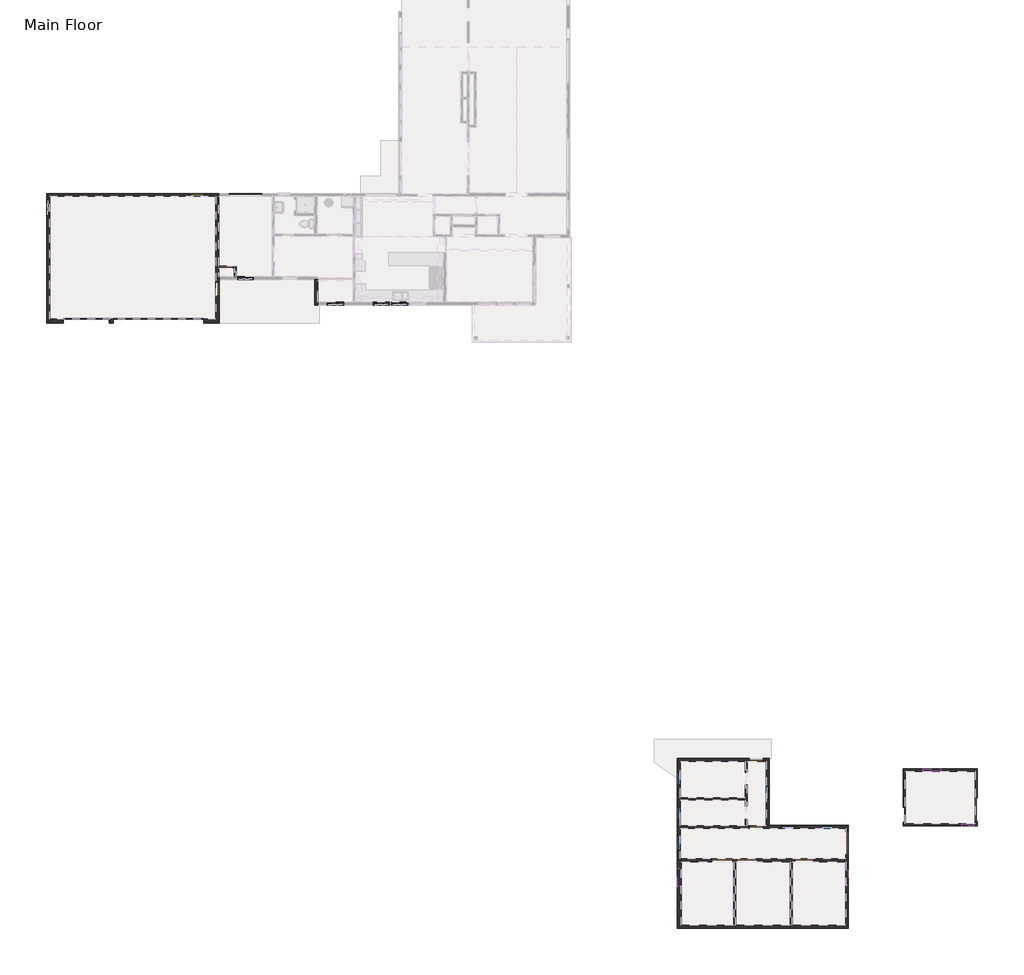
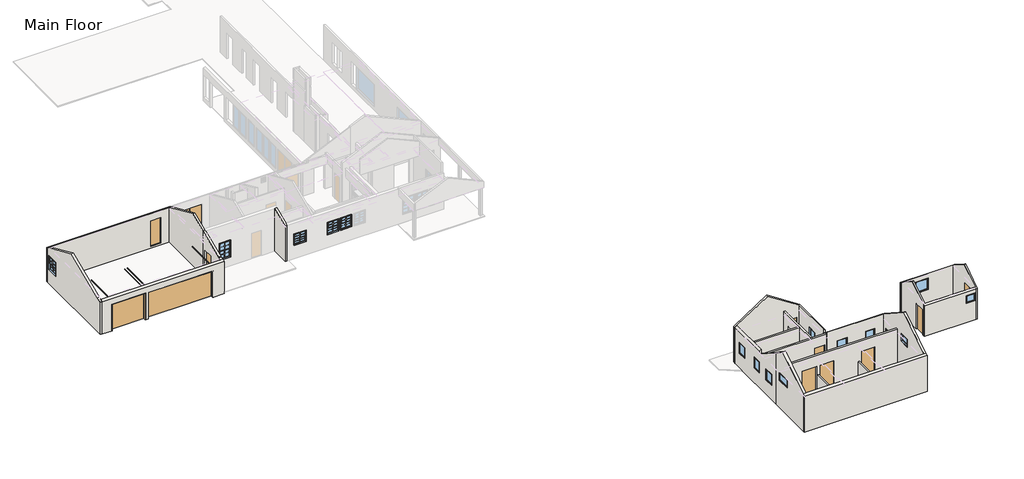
# One storey, part 1 of 7: 25 walls, 15 windows, 14 doors.
"""IFC4 building model written with IfcOpenShell, lengths in millimetres."""

from ifc_helpers import new_model, si_unit, frame, origin, origin_with_axes, place, context, project, spatial, polyline, outline, extrude, faceted_brep, transform, mapped, element, save
from components import door_56aae4db, door_aa45f35f, door_f61abd0f, door_662d1a84, door_c08c9a8a, door_f91040a7, door_c18e4cd1, door_3e174ebe, door_db714eb8, door_61cb701e, door_faa834dd, door_1b11d0cb, door_520bfe9a, default_1_2afedee8, default_1_0b7c2a07, default_1_3172ef4f, default_1_b5ca020e, default_1_563e1f2a, default_1_31258936, default_1_f0c9d7c5, default_1_b686479b, default_1_b708f4cf, default_1_5ed156b9, default_1_ae74118c, default_1_0f471e2e, default_1_8e04e30e

model = new_model("IFC4")

# Units and contexts
model_context = context("Model", 3, world=origin())
ifc_project = project(units=[si_unit("LENGTHUNIT", "METRE", prefix="MILLI")], contexts=[model_context])

# Site, building, storey
site = spatial("IfcSite", under=ifc_project)
building = spatial("IfcBuilding", under=site)
storey = spatial("IfcBuildingStorey", under=building, Name="Main Floor", Elevation=0.0)

# Doors
placement = place(None, origin())
door_shape = door_56aae4db(model_context)
element("IfcDoor", 1, ObjectType="Planitar - Garage Door : 16'-0\" x 6'-10\"", at=placement, inside=storey, context=model_context, shape_type="MappedRepresentation", body=[
    mapped(door_shape, transform((-5751.6516992, -10239.9497068, -139.7), x_axis=(-1.0, 0.0, 0.0), y_axis=(0.0, -1.0, 0.0), z_axis=(0.0, 0.0, 1.0))),
])
door_2_shape = door_aa45f35f(model_context)
element("IfcDoor", 2, ObjectType="Planitar - Single Door_Flush Panel : 2'-6\" x 6'-8\"", at=placement, inside=storey, context=model_context, shape_type="MappedRepresentation", body=[
    mapped(door_2_shape, transform((26566.3489703, -37600.6675931, 0.0), x_axis=(1.0, 0.0, 0.0), y_axis=(0.0, 1.0, 0.0), z_axis=(0.0, 0.0, 1.0))),
])
door_3_shape = door_f61abd0f(model_context)
element("IfcDoor", 3, ObjectType="Planitar - Single Door_Flush Panel : 2'-6\" x 6'-8\"", at=placement, inside=storey, context=model_context, shape_type="MappedRepresentation", body=[
    mapped(door_3_shape, transform((-2092.5156992, -7315.7747068, 0.0), x_axis=(-1.0, 0.0, 0.0), y_axis=(0.0, -1.0, 0.0), z_axis=(0.0, 0.0, 1.0))),
])
door_4_shape = door_662d1a84(model_context)
element("IfcDoor", 4, ObjectType="Planitar - Single Door_Flush Panel : 2'-6\" x 6'-8\"", at=placement, inside=storey, context=model_context, shape_type="MappedRepresentation", body=[
    mapped(door_4_shape, transform((26557.2260703, -33962.1175931, 0.0), x_axis=(1.0, 0.0, 0.0), y_axis=(0.0, 1.0, 0.0), z_axis=(0.0, 0.0, 1.0))),
])
door_5_shape = door_c08c9a8a(model_context)
element("IfcDoor", 5, ObjectType="Planitar - Single Door_Flush Panel : 2'-6\" x 6'-8\"", at=placement, inside=storey, context=model_context, shape_type="MappedRepresentation", body=[
    mapped(door_5_shape, transform((-3650.1612992, -3404.1747068, 0.0), x_axis=(1.0, 0.0, 0.0), y_axis=(0.0, 1.0, 0.0), z_axis=(0.0, 0.0, 1.0))),
])
door_6_shape = door_f91040a7(model_context)
element("IfcDoor", 6, ObjectType="Planitar - Single Door_Flush Panel : 2'-6\" x 6'-8\"", at=placement, inside=storey, context=model_context, shape_type="MappedRepresentation", body=[
    mapped(door_6_shape, transform((-2562.4156992, -8496.3574068, 0.0), x_axis=(0.0, 1.0, 0.0), y_axis=(-1.0, 0.0, 0.0), z_axis=(0.0, 0.0, 1.0))),
])
door_7_shape = door_c18e4cd1(model_context)
element("IfcDoor", 7, ObjectType="Planitar - Single Door_Flush Panel : 2'-8\" x 6'-8\"", at=placement, inside=storey, context=model_context, shape_type="MappedRepresentation", body=[
    mapped(door_7_shape, transform((34565.962334, -36937.7881179, 0.0), x_axis=(0.0, -1.0, 0.0), y_axis=(1.0, 0.0, 0.0), z_axis=(0.0, 0.0, 1.0))),
])
door_8_shape = door_3e174ebe(model_context)
element("IfcDoor", 8, ObjectType="Planitar - Single Door_Flush Panel : 3'-4\" x 6'-8\"", at=placement, inside=storey, context=model_context, shape_type="MappedRepresentation", body=[
    mapped(door_8_shape, transform((29160.5271703, -39404.0675931, 0.0), x_axis=(-1.0, 0.0, 0.0), y_axis=(0.0, -1.0, 0.0), z_axis=(0.0, 0.0, 1.0))),
])
door_9_shape = door_db714eb8(model_context)
element("IfcDoor", 9, ObjectType="Planitar - Single Door_Flush Panel : 3'-8\" x 6'-8\"", at=placement, inside=storey, context=model_context, shape_type="MappedRepresentation", body=[
    mapped(door_9_shape, transform((24727.8640703, -39404.0675931, 0.0), x_axis=(-1.0, 0.0, 0.0), y_axis=(0.0, -1.0, 0.0), z_axis=(0.0, 0.0, 1.0))),
])
element("IfcDoor", 10, ObjectType="Planitar - Single Door_Flush Panel : 3'-8\" x 6'-8\"", at=placement, inside=storey, context=model_context, shape_type="MappedRepresentation", body=[
    mapped(door_9_shape, transform((26079.6528703, -39404.0675931, 0.0), x_axis=(-1.0, 0.0, 0.0), y_axis=(0.0, -1.0, 0.0), z_axis=(0.0, 0.0, 1.0))),
])
door_10_shape = door_61cb701e(model_context)
element("IfcDoor", 11, ObjectType="Planitar - Single Door_Flush Panel : 4'-0\" x 6'-8\"", at=placement, inside=storey, context=model_context, shape_type="MappedRepresentation", body=[
    mapped(door_10_shape, transform((31467.8377703, -38480.1425931, 0.0), x_axis=(0.0, 1.0, 0.0), y_axis=(-1.0, 0.0, 0.0), z_axis=(0.0, 0.0, 1.0))),
])
door_11_shape = door_faa834dd(model_context)
element("IfcDoor", 12, ObjectType="Planitar - Single Door_Flush Panel : 4'-2\" x 6'-8\"", at=placement, inside=storey, context=model_context, shape_type="MappedRepresentation", body=[
    mapped(door_11_shape, transform((38464.862334, -36645.6881179, 0.0), x_axis=(0.0, 1.0, 0.0), y_axis=(-1.0, 0.0, 0.0), z_axis=(0.0, 0.0, 1.0))),
])
door_12_shape = door_1b11d0cb(model_context)
element("IfcDoor", 13, ObjectType="Planitar - Double Door_Flush Panel : 5'-10\" x 6'-8\"", at=placement, inside=storey, context=model_context, shape_type="MappedRepresentation", body=[
    mapped(door_12_shape, transform((-1048.9310992, -3404.1747068, 0.0), x_axis=(1.0, 0.0, 0.0), y_axis=(0.0, 1.0, 0.0), z_axis=(0.0, 0.0, 1.0))),
])
door_13_shape = door_520bfe9a(model_context)
element("IfcDoor", 14, ObjectType="Planitar - Garage Door : 8'-2\" x 6'-10\"", at=placement, inside=storey, context=model_context, shape_type="MappedRepresentation", body=[
    mapped(door_13_shape, transform((-9654.0848992, -10239.9497068, -139.7), x_axis=(-1.0, 0.0, 0.0), y_axis=(0.0, -1.0, 0.0), z_axis=(0.0, 0.0, 1.0))),
])

# Walls
element("IfcWall", 15, ObjectType="Planitar - Generic 6\"", at=placement, inside=storey, context=model_context, shape_type="Brep", body=[
    faceted_brep([(2695.3843008, -7976.1747068, 0.0), (2695.3843008, -9354.1247068, 0.0), (2695.3843008, -9354.1247068, 2825.0906686), (2695.3843008, -7976.1747068, 3412.099784), (2847.7843008, -7976.1747068, 0.0), (2847.7843008, -7976.1747068, 3412.099784), (2847.7843008, -9201.7247068, 2890.0133357), (2847.7843008, -9354.1247068, 2825.0906686), (2847.7843008, -9354.1247068, 0.0), (2847.7843008, -9201.7247068, 0.0), (2847.7843008, -8033.3247068, 0.0)], [[[0, 1, 2, 3]], [[4, 5, 6, 7, 8, 9, 10]], [[1, 0, 4, 10, 9, 8]], [[0, 3, 5, 4]], [[2, 1, 8, 7]], [[3, 2, 7, 6, 5]]]),
])
element("IfcWall", 16, ObjectType="Planitar - Generic 6\"", at=placement, inside=storey, context=model_context, shape_type="Brep", body=[
    faceted_brep([(-11788.9656992, -3480.3747068, -139.7), (-11788.9656992, -10338.3747068, -139.7), (-11788.9656992, -10338.3747068, 2405.2064819), (-11788.9656992, -9963.7247068, 2564.8080386), (-11788.9656992, -9963.7247068, 2565.4), (-11788.9656992, -6572.6284838, 4010.0129354), (-11788.9656992, -3480.3747068, 2633.2528516), (-11788.9656992, -4544.0194068, 2082.8), (-11788.9656992, -4544.0194068, 990.6), (-11788.9656992, -3629.6194068, 990.6), (-11788.9656992, -3629.6194068, 2082.8), (-11636.5656992, -3480.3747068, -139.7), (-11636.5656992, -3480.3747068, 2633.2528516), (-11636.5656992, -6572.6284838, 4010.0129354), (-11636.5656992, -9963.7247068, 2565.4), (-11636.5656992, -9963.7247068, 2564.8080386), (-11636.5656992, -10135.1747068, 2491.7700381), (-11636.5656992, -10338.3747068, 2405.2064819), (-11636.5656992, -10338.3747068, -139.7), (-11636.5656992, -10135.1747068, -139.7), (-11636.5656992, -4544.0194068, 2082.8), (-11636.5656992, -3629.6194068, 2082.8), (-11636.5656992, -3629.6194068, 990.6), (-11636.5656992, -4544.0194068, 990.6)], [[[0, 1, 2, 3, 4, 5, 6], [7, 8, 9, 10]], [[11, 12, 13, 14, 15, 16, 17, 18, 19], [20, 21, 22, 23]], [[1, 0, 11, 19, 18]], [[0, 6, 12, 11]], [[2, 1, 18, 17]], [[8, 7, 20, 23]], [[9, 8, 23, 22]], [[10, 9, 22, 21]], [[7, 10, 21, 20]], [[6, 5, 13, 12]], [[5, 4, 14, 13]], [[3, 2, 17, 16, 15]], [[14, 4, 3, 15]]]),
])
element("IfcWall", 17, ObjectType="Planitar - Generic 8\"", at=placement, inside=storey, context=model_context, shape_type="Brep", body=[
    faceted_brep([(-11636.5656992, -10338.3747068, 2405.2064819), (-11636.5656992, -10338.3747068, -139.7), (-10898.6848992, -10338.3747068, -139.7), (-10898.6848992, -10338.3747068, 1943.1), (-8409.4848992, -10338.3747068, 1943.1), (-8409.4848992, -10338.3747068, -139.7), (-8190.0516992, -10338.3747068, -139.7), (-8190.0516992, -10338.3747068, 1943.1), (-3313.2516992, -10338.3747068, 1943.1), (-3313.2516992, -10338.3747068, -139.7), (-2473.5156992, -10338.3747068, -139.7), (-2473.5156992, -10338.3747068, 2405.2064819), (-11636.5656992, -10135.1747068, -139.7), (-11636.5656992, -10135.1747068, 2491.7700381), (-2651.3156992, -10135.1747068, 2491.7700381), (-2473.5156992, -10135.1747068, 2491.7700381), (-2473.5156992, -10135.1747068, -139.7), (-2651.3156992, -10135.1747068, -139.7), (-3313.2516992, -10135.1747068, -139.7), (-3313.2516992, -10135.1747068, 1943.1), (-8190.0516992, -10135.1747068, 1943.1), (-8190.0516992, -10135.1747068, -139.7), (-8409.4848992, -10135.1747068, -139.7), (-8409.4848992, -10135.1747068, 1943.1), (-10898.6848992, -10135.1747068, 1943.1), (-10898.6848992, -10135.1747068, -139.7)], [[[0, 1, 2, 3, 4, 5, 6, 7, 8, 9, 10, 11]], [[12, 13, 14, 15, 16, 17, 18, 19, 20, 21, 22, 23, 24, 25]], [[1, 12, 25, 2]], [[16, 10, 9, 18, 17]], [[5, 22, 21, 6]], [[1, 0, 13, 12]], [[11, 10, 16, 15]], [[20, 7, 6, 21]], [[7, 20, 19, 8]], [[8, 19, 18, 9]], [[24, 3, 2, 25]], [[3, 24, 23, 4]], [[4, 23, 22, 5]], [[0, 11, 15, 14, 13]]]),
])
element("IfcWall", 18, ObjectType="Planitar - Generic 7\"", at=placement, inside=storey, context=model_context, shape_type="Brep", body=[
    faceted_brep([(-2473.5156992, -10135.1747068, -139.7), (-2473.5156992, -7899.9747068, -139.7), (-2473.5156992, -7899.9747068, 0.0), (-2473.5156992, -7899.9747068, 3444.5611176), (-2473.5156992, -7976.1747068, 3412.099784), (-2473.5156992, -9963.7247068, 2565.4), (-2473.5156992, -9963.7247068, 2564.8080386), (-2473.5156992, -10135.1747068, 2491.7700381), (-2473.5156992, -8877.3574068, 0.0), (-2473.5156992, -8877.3574068, 2032.0), (-2473.5156992, -8115.3574068, 2032.0), (-2473.5156992, -8115.3574068, 0.0), (-2651.3156992, -10135.1747068, -139.7), (-2651.3156992, -10135.1747068, 2491.7700381), (-2651.3156992, -9963.7247068, 2564.8080386), (-2651.3156992, -9963.7247068, 2565.4), (-2651.3156992, -7899.9747068, 3444.5611176), (-2651.3156992, -7899.9747068, -139.7), (-2651.3156992, -8877.3574068, 0.0), (-2651.3156992, -8115.3574068, 0.0), (-2651.3156992, -8115.3574068, 2032.0), (-2651.3156992, -8877.3574068, 2032.0), (-2498.9156992, -7899.9747068, -139.7), (-2498.9156992, -7899.9747068, 3444.5611176)], [[[0, 1, 2, 3, 4, 5, 6, 7], [8, 9, 10, 11]], [[12, 13, 14, 15, 16, 17], [18, 19, 20, 21]], [[1, 0, 12, 17, 22]], [[0, 7, 13, 12]], [[19, 18, 8, 11]], [[20, 19, 11, 10]], [[21, 20, 10, 9]], [[18, 21, 9, 8]], [[1, 22, 17, 16, 23, 3, 2]], [[5, 4, 3, 23, 16, 15]], [[7, 6, 14, 13]], [[5, 15, 14, 6]]]),
])
element("IfcWall", 19, ObjectType="Planitar - Generic 6\"", at=placement, inside=storey, context=model_context, shape_type="Brep", body=[
    faceted_brep([(-2498.9156992, -7899.9747068, 3444.5611176), (-2498.9156992, -7899.9747068, 0.0), (-2498.9156992, -7899.9747068, -139.7), (-2498.9156992, -3480.3747068, -139.7), (-2498.9156992, -3480.3747068, 2633.2528516), (-2498.9156992, -6572.6284838, 4010.0129354), (-2498.9156992, -7823.7747068, 3477.0224512), (-2651.3156992, -7899.9747068, -139.7), (-2651.3156992, -7899.9747068, 3444.5611176), (-2651.3156992, -6572.6284838, 4010.0129354), (-2651.3156992, -3480.3747068, 2633.2528516), (-2651.3156992, -3480.3747068, -139.7)], [[[0, 1, 2, 3, 4, 5, 6]], [[7, 8, 9, 10, 11]], [[3, 2, 7, 11]], [[0, 8, 7, 2, 1]], [[3, 11, 10, 4]], [[0, 6, 5, 9, 8]], [[5, 4, 10, 9]]]),
])
element("IfcWall", 20, ObjectType="Planitar - Generic 4 1/2\"", at=placement, inside=storey, context=model_context, shape_type="Brep", body=[
    faceted_brep([(-2498.9156992, -7372.9247068, 0.0), (-2473.5156992, -7372.9247068, 0.0), (-2473.5156992, -7372.9247068, 2032.0), (-1711.5156992, -7372.9247068, 2032.0), (-1711.5156992, -7372.9247068, 0.0), (-1667.0656992, -7372.9247068, 0.0), (-1552.7656992, -7372.9247068, 0.0), (-1552.7656992, -7372.9247068, 2870.2), (-1667.0656992, -7372.9247068, 2870.2), (-2498.9156992, -7372.9247068, 2870.2), (-2473.5156992, -7258.6247068, 2032.0), (-2473.5156992, -7258.6247068, 0.0), (-2498.9156992, -7258.6247068, 0.0), (-2498.9156992, -7258.6247068, 2870.2), (-1552.7656992, -7258.6247068, 2870.2), (-1552.7656992, -7258.6247068, 0.0), (-1711.5156992, -7258.6247068, 0.0), (-1711.5156992, -7258.6247068, 2032.0)], [[[0, 1, 2, 3, 4, 5, 6, 7, 8, 9]], [[10, 11, 12, 13, 14, 15, 16, 17]], [[16, 15, 6, 5, 4]], [[12, 11, 1, 0]], [[9, 8, 7, 14, 13]], [[0, 9, 13, 12]], [[7, 6, 15, 14]], [[2, 1, 11, 10]], [[3, 2, 10, 17]], [[4, 3, 17, 16]]]),
])
element("IfcWall", 21, ObjectType="Planitar - Generic 4 1/2\"", at=placement, inside=storey, context=model_context, shape_type="SweptSolid", body=[
    extrude(outline(polyline([(-1667.0656992, -7823.7747068), (-1667.0656992, -7372.9247068), (-1552.7656992, -7372.9247068), (-1552.7656992, -7823.7747068), (-1667.0656992, -7823.7747068)])), origin_with_axes(), (0.0, 0.0, 1.0), 2870.2),
])
element("IfcWall", 22, ObjectType="Planitar - Generic 6\"", at=placement, inside=storey, context=model_context, shape_type="Brep", body=[
    faceted_brep([(22292.0877703, -43068.0175931, 0.0), (31544.0377703, -43068.0175931, 0.0), (31544.0377703, -43068.0175931, 2870.2), (22292.0877703, -43068.0175931, 2870.2), (22292.0877703, -42915.6175931, 0.0), (22292.0877703, -42915.6175931, 2969.1697172), (22495.2877703, -42915.6175931, 2969.1697172), (31391.6377703, -42915.6175931, 2969.1697172), (31544.0377703, -42915.6175931, 2969.1697172), (31544.0377703, -42915.6175931, 0.0), (31391.6377703, -42915.6175931, 0.0), (28508.7377703, -42915.6175931, 0.0), (28394.4377703, -42915.6175931, 0.0), (25454.3877703, -42915.6175931, 0.0), (25340.0877703, -42915.6175931, 0.0), (22495.2877703, -42915.6175931, 0.0)], [[[0, 1, 2, 3]], [[4, 5, 6, 7, 8, 9, 10, 11, 12, 13, 14, 15]], [[1, 0, 4, 15, 14, 13, 12, 11, 10, 9]], [[2, 1, 9, 8]], [[0, 3, 5, 4]], [[3, 2, 8, 7, 6, 5]]]),
])
element("IfcWall", 23, ObjectType="Planitar - Generic 6\"", at=placement, inside=storey, context=model_context, shape_type="Brep", body=[
    faceted_brep([(31544.0377703, -37870.5425931, 2032.0), (31544.0377703, -37870.5425931, 0.0), (31544.0377703, -37505.4175931, 0.0), (31544.0377703, -37505.4175931, 2870.2), (31544.0377703, -40286.7175931, 4676.397339), (31544.0377703, -42915.6175931, 2969.1697172), (31544.0377703, -42915.6175931, 0.0), (31544.0377703, -39089.7425931, 0.0), (31544.0377703, -39089.7425931, 2032.0), (31544.0377703, -39948.6222931, 2184.4), (31544.0377703, -40761.4222931, 2184.4), (31544.0377703, -40761.4222931, 2794.0), (31544.0377703, -39948.6222931, 2794.0), (31391.6377703, -37505.4175931, 0.0), (31391.6377703, -37657.8175931, 0.0), (31391.6377703, -37870.5425931, 0.0), (31391.6377703, -37870.5425931, 2032.0), (31391.6377703, -39089.7425931, 2032.0), (31391.6377703, -39089.7425931, 0.0), (31391.6377703, -39321.5175931, 0.0), (31391.6377703, -39486.6175931, 0.0), (31391.6377703, -42915.6175931, 0.0), (31391.6377703, -42915.6175931, 2969.1697172), (31391.6377703, -40286.7175931, 4676.397339), (31391.6377703, -37657.8175931, 2969.1697172), (31391.6377703, -37505.4175931, 2870.2), (31391.6377703, -39948.6222931, 2184.4), (31391.6377703, -39948.6222931, 2794.0), (31391.6377703, -40761.4222931, 2794.0), (31391.6377703, -40761.4222931, 2184.4)], [[[0, 1, 2, 3, 4, 5, 6, 7, 8], [9, 10, 11, 12]], [[13, 14, 15, 16, 17, 18, 19, 20, 21, 22, 23, 24, 25], [26, 27, 28, 29]], [[7, 6, 21, 20, 19, 18]], [[2, 1, 15, 14, 13]], [[6, 5, 22, 21]], [[3, 2, 13, 25]], [[27, 26, 9, 12]], [[28, 27, 12, 11]], [[29, 28, 11, 10]], [[26, 29, 10, 9]], [[16, 15, 1, 0]], [[17, 16, 0, 8]], [[18, 17, 8, 7]], [[5, 4, 23, 22]], [[4, 3, 25, 24, 23]]]),
])
element("IfcWall", 24, ObjectType="Planitar - Generic 6\"", at=placement, inside=storey, context=model_context, shape_type="Brep", body=[
    faceted_brep([(31391.6377703, -37505.4175931, 0.0), (27264.1377703, -37505.4175931, 0.0), (27111.7377703, -37505.4175931, 0.0), (27111.7377703, -37505.4175931, 2870.2), (27264.1377703, -37505.4175931, 2870.2), (31391.6377703, -37505.4175931, 2870.2), (30031.7854703, -37505.4175931, 1117.6), (30742.9854703, -37505.4175931, 1117.6), (30742.9854703, -37505.4175931, 2032.0), (30031.7854703, -37505.4175931, 2032.0), (27911.3573703, -37505.4175931, 1117.6), (28673.3573703, -37505.4175931, 1117.6), (28673.3573703, -37505.4175931, 2032.0), (27911.3573703, -37505.4175931, 2032.0), (31391.6377703, -37657.8175931, 0.0), (31391.6377703, -37657.8175931, 2969.1697172), (27111.7377703, -37657.8175931, 2969.1697172), (27111.7377703, -37657.8175931, 2870.2), (27111.7377703, -37657.8175931, 0.0), (30031.7854703, -37657.8175931, 1117.6), (30031.7854703, -37657.8175931, 2032.0), (30742.9854703, -37657.8175931, 2032.0), (30742.9854703, -37657.8175931, 1117.6), (27911.3573703, -37657.8175931, 1117.6), (27911.3573703, -37657.8175931, 2032.0), (28673.3573703, -37657.8175931, 2032.0), (28673.3573703, -37657.8175931, 1117.6), (27111.7377703, -37543.5175931, 0.0)], [[[0, 1, 2, 3, 4, 5], [6, 7, 8, 9], [10, 11, 12, 13]], [[14, 15, 16, 17, 18], [19, 20, 21, 22], [23, 24, 25, 26]], [[2, 1, 0, 14, 18, 27]], [[0, 5, 15, 14]], [[3, 2, 27, 18, 17, 16]], [[20, 19, 6, 9]], [[21, 20, 9, 8]], [[22, 21, 8, 7]], [[19, 22, 7, 6]], [[24, 23, 10, 13]], [[25, 24, 13, 12]], [[26, 25, 12, 11]], [[23, 26, 11, 10]], [[5, 4, 3, 16, 15]]]),
])
element("IfcWall", 25, ObjectType="Planitar - Generic 6\"", at=placement, inside=storey, context=model_context, shape_type="Brep", body=[
    faceted_brep([(27264.1377703, -37505.4175931, 0.0), (27264.1377703, -33885.9175931, 0.0), (27264.1377703, -33885.9175931, 2870.2), (27264.1377703, -37200.6175931, 2870.2), (27264.1377703, -37200.6175931, 2672.2605656), (27264.1377703, -37505.4175931, 2870.2), (27264.1377703, -35361.3759931, 1117.6), (27264.1377703, -36123.3759931, 1117.6), (27264.1377703, -36123.3759931, 2032.0), (27264.1377703, -35361.3759931, 2032.0), (27111.7377703, -37505.4175931, 0.0), (27111.7377703, -37505.4175931, 2870.2), (27111.7377703, -37200.6175931, 2672.2605656), (27111.7377703, -37200.6175931, 2969.1697172), (27111.7377703, -34038.3175931, 2969.1697172), (27111.7377703, -33885.9175931, 2969.1697172), (27111.7377703, -33885.9175931, 0.0), (27111.7377703, -34038.3175931, 0.0), (27111.7377703, -35361.3759931, 1117.6), (27111.7377703, -35361.3759931, 2032.0), (27111.7377703, -36123.3759931, 2032.0), (27111.7377703, -36123.3759931, 1117.6)], [[[0, 1, 2, 3, 4, 5], [6, 7, 8, 9]], [[10, 11, 12, 13, 14, 15, 16, 17], [18, 19, 20, 21]], [[1, 0, 10, 17, 16]], [[0, 5, 11, 10]], [[2, 1, 16, 15]], [[19, 18, 6, 9]], [[20, 19, 9, 8]], [[21, 20, 8, 7]], [[18, 21, 7, 6]], [[3, 13, 12, 4]], [[5, 4, 12, 11]], [[3, 2, 15, 14, 13]]]),
])
element("IfcWall", 26, ObjectType="Planitar - Generic 6\"", at=placement, inside=storey, context=model_context, shape_type="Brep", body=[
    faceted_brep([(27111.7377703, -33885.9175931, 0.0), (26938.2260703, -33885.9175931, 0.0), (26938.2260703, -33885.9175931, 2032.0), (26176.2260703, -33885.9175931, 2032.0), (26176.2260703, -33885.9175931, 0.0), (22292.0877703, -33885.9175931, 0.0), (22292.0877703, -33885.9175931, 2870.2), (24778.1127703, -33885.9175931, 4484.6435119), (27111.7377703, -33885.9175931, 2969.1697172), (26938.2260703, -34038.3175931, 2032.0), (26938.2260703, -34038.3175931, 0.0), (27111.7377703, -34038.3175931, 0.0), (27111.7377703, -34038.3175931, 2969.1697172), (24778.1127703, -34038.3175931, 4484.6435119), (22444.4877703, -34038.3175931, 2969.1697172), (22292.0877703, -34038.3175931, 2870.2), (22292.0877703, -34038.3175931, 0.0), (22444.4877703, -34038.3175931, 0.0), (25962.3877703, -34038.3175931, 0.0), (26076.6877703, -34038.3175931, 0.0), (26176.2260703, -34038.3175931, 0.0), (26176.2260703, -34038.3175931, 2032.0)], [[[0, 1, 2, 3, 4, 5, 6, 7, 8]], [[9, 10, 11, 12, 13, 14, 15, 16, 17, 18, 19, 20, 21]], [[11, 10, 1, 0]], [[20, 19, 18, 17, 16, 5, 4]], [[0, 8, 12, 11]], [[6, 5, 16, 15]], [[2, 1, 10, 9]], [[3, 2, 9, 21]], [[4, 3, 21, 20]], [[8, 7, 13, 12]], [[7, 6, 15, 14, 13]]]),
])
element("IfcWall", 27, ObjectType="Planitar - Generic 6\"", at=placement, inside=storey, context=model_context, shape_type="Brep", body=[
    faceted_brep([(22292.0877703, -34038.3175931, 0.0), (22292.0877703, -39404.0675931, 0.0), (22292.0877703, -39404.0675931, 4103.1977268), (22292.0877703, -37200.6175931, 2672.2605656), (22292.0877703, -37200.6175931, 2870.2), (22292.0877703, -34038.3175931, 2870.2), (22292.0877703, -35321.0505931, 1168.4), (22292.0877703, -34609.8505931, 1168.4), (22292.0877703, -34609.8505931, 2032.0), (22292.0877703, -35321.0505931, 2032.0), (22292.0877703, -37192.0148931, 1168.4), (22292.0877703, -36531.6148931, 1168.4), (22292.0877703, -36531.6148931, 2032.0), (22292.0877703, -37192.0148931, 2032.0), (22292.0877703, -38844.1718931, 1168.4), (22292.0877703, -38082.1718931, 1168.4), (22292.0877703, -38082.1718931, 2032.0), (22292.0877703, -38844.1718931, 2032.0), (22444.4877703, -34038.3175931, 0.0), (22444.4877703, -34038.3175931, 2969.1697172), (22444.4877703, -37200.6175931, 2969.1697172), (22444.4877703, -37200.6175931, 2672.2605656), (22444.4877703, -39404.0675931, 4103.1977268), (22444.4877703, -39404.0675931, 2870.2), (22444.4877703, -39404.0675931, 0.0), (22444.4877703, -39321.5175931, 0.0), (22444.4877703, -37657.8175931, 0.0), (22444.4877703, -37543.5175931, 0.0), (22444.4877703, -36127.4675931, 0.0), (22444.4877703, -36013.1675931, 0.0), (22444.4877703, -35321.0505931, 1168.4), (22444.4877703, -35321.0505931, 2032.0), (22444.4877703, -34609.8505931, 2032.0), (22444.4877703, -34609.8505931, 1168.4), (22444.4877703, -37192.0148931, 1168.4), (22444.4877703, -37192.0148931, 2032.0), (22444.4877703, -36531.6148931, 2032.0), (22444.4877703, -36531.6148931, 1168.4), (22444.4877703, -38844.1718931, 1168.4), (22444.4877703, -38844.1718931, 2032.0), (22444.4877703, -38082.1718931, 2032.0), (22444.4877703, -38082.1718931, 1168.4)], [[[0, 1, 2, 3, 4, 5], [6, 7, 8, 9], [10, 11, 12, 13], [14, 15, 16, 17]], [[18, 19, 20, 21, 22, 23, 24, 25, 26, 27, 28, 29], [30, 31, 32, 33], [34, 35, 36, 37], [38, 39, 40, 41]], [[1, 0, 18, 29, 28, 27, 26, 25, 24]], [[2, 1, 24, 23, 22]], [[0, 5, 19, 18]], [[31, 30, 6, 9]], [[32, 31, 9, 8]], [[33, 32, 8, 7]], [[30, 33, 7, 6]], [[35, 34, 10, 13]], [[36, 35, 13, 12]], [[37, 36, 12, 11]], [[34, 37, 11, 10]], [[39, 38, 14, 17]], [[40, 39, 17, 16]], [[41, 40, 16, 15]], [[38, 41, 15, 14]], [[20, 4, 3, 21]], [[3, 2, 22, 21]], [[5, 4, 20, 19]]]),
])
element("IfcWall", 28, ObjectType="Planitar - Generic 8\"", at=placement, inside=storey, context=model_context, shape_type="Brep", body=[
    faceted_brep([(22292.0877703, -39404.0675931, 0.0), (22292.0877703, -42915.6175931, 0.0), (22292.0877703, -42915.6175931, 2969.1697172), (22292.0877703, -40286.7175931, 4676.397339), (22292.0877703, -39404.0675931, 4103.1977268), (22292.0877703, -40838.4533931, 2794.0), (22292.0877703, -40838.4533931, 2184.4), (22292.0877703, -39822.4533931, 2184.4), (22292.0877703, -39822.4533931, 2794.0), (22495.2877703, -42915.6175931, 0.0), (22495.2877703, -39486.6175931, 0.0), (22495.2877703, -39404.0675931, 0.0), (22495.2877703, -39404.0675931, 2870.2), (22495.2877703, -39404.0675931, 4103.1977268), (22495.2877703, -40286.7175931, 4676.397339), (22495.2877703, -42915.6175931, 2969.1697172), (22495.2877703, -40838.4533931, 2184.4), (22495.2877703, -40838.4533931, 2794.0), (22495.2877703, -39822.4533931, 2794.0), (22495.2877703, -39822.4533931, 2184.4), (22444.4877703, -39404.0675931, 0.0), (22444.4877703, -39404.0675931, 4103.1977268)], [[[0, 1, 2, 3, 4], [5, 6, 7, 8]], [[9, 10, 11, 12, 13, 14, 15], [16, 17, 18, 19]], [[1, 0, 20, 11, 10, 9]], [[0, 4, 21, 13, 12, 11, 20]], [[2, 1, 9, 15]], [[16, 6, 5, 17]], [[18, 8, 7, 19]], [[6, 16, 19, 7]], [[8, 18, 17, 5]], [[13, 21, 4, 3, 14]], [[2, 15, 14, 3]]]),
])
element("IfcWall", 29, ObjectType="Planitar - Generic 6 1/2\"", at=placement, inside=storey, context=model_context, shape_type="Brep", body=[
    faceted_brep([(26638.4528703, -39486.6175931, 0.0), (28394.4377703, -39486.6175931, 0.0), (28508.7377703, -39486.6175931, 0.0), (28652.5271703, -39486.6175931, 0.0), (28652.5271703, -39486.6175931, 2032.0), (29668.5271703, -39486.6175931, 2032.0), (29668.5271703, -39486.6175931, 0.0), (31391.6377703, -39486.6175931, 0.0), (31391.6377703, -39486.6175931, 2870.2), (22495.2877703, -39486.6175931, 2870.2), (22495.2877703, -39486.6175931, 0.0), (24169.0640703, -39486.6175931, 0.0), (24169.0640703, -39486.6175931, 2032.0), (25286.6640703, -39486.6175931, 2032.0), (25286.6640703, -39486.6175931, 0.0), (25340.0877703, -39486.6175931, 0.0), (25454.3877703, -39486.6175931, 0.0), (25520.8528703, -39486.6175931, 0.0), (25520.8528703, -39486.6175931, 2032.0), (26638.4528703, -39486.6175931, 2032.0), (28652.5271703, -39321.5175931, 2032.0), (28652.5271703, -39321.5175931, 0.0), (26638.4528703, -39321.5175931, 0.0), (26638.4528703, -39321.5175931, 2032.0), (25520.8528703, -39321.5175931, 2032.0), (25520.8528703, -39321.5175931, 0.0), (25286.6640703, -39321.5175931, 0.0), (25286.6640703, -39321.5175931, 2032.0), (24169.0640703, -39321.5175931, 2032.0), (24169.0640703, -39321.5175931, 0.0), (22444.4877703, -39321.5175931, 0.0), (22444.4877703, -39321.5175931, 2870.2), (31391.6377703, -39321.5175931, 2870.2), (31391.6377703, -39321.5175931, 0.0), (29668.5271703, -39321.5175931, 0.0), (29668.5271703, -39321.5175931, 2032.0), (22495.2877703, -39404.0675931, 0.0), (22444.4877703, -39404.0675931, 0.0), (22444.4877703, -39404.0675931, 2870.2), (22495.2877703, -39404.0675931, 2870.2)], [[[0, 1, 2, 3, 4, 5, 6, 7, 8, 9, 10, 11, 12, 13, 14, 15, 16, 17, 18, 19]], [[20, 21, 22, 23, 24, 25, 26, 27, 28, 29, 30, 31, 32, 33, 34, 35]], [[30, 29, 11, 10, 36, 37]], [[26, 25, 17, 16, 15, 14]], [[34, 33, 7, 6]], [[22, 21, 3, 2, 1, 0]], [[9, 8, 32, 31, 38, 39]], [[10, 9, 39, 36]], [[39, 38, 37, 36]], [[38, 31, 30, 37]], [[8, 7, 33, 32]], [[12, 11, 29, 28]], [[13, 12, 28, 27]], [[14, 13, 27, 26]], [[18, 17, 25, 24]], [[19, 18, 24, 23]], [[0, 19, 23, 22]], [[4, 3, 21, 20]], [[5, 4, 20, 35]], [[6, 5, 35, 34]]]),
])
element("IfcWall", 30, ObjectType="Planitar - Generic 4 1/2\"", at=placement, inside=storey, context=model_context, shape_type="Brep", body=[
    faceted_brep([(27111.7377703, -37543.5175931, 0.0), (26947.3489703, -37543.5175931, 0.0), (26947.3489703, -37543.5175931, 2032.0), (26185.3489703, -37543.5175931, 2032.0), (26185.3489703, -37543.5175931, 0.0), (26076.6877703, -37543.5175931, 0.0), (25962.3877703, -37543.5175931, 0.0), (22444.4877703, -37543.5175931, 0.0), (22444.4877703, -37543.5175931, 2870.2), (25962.3877703, -37543.5175931, 2870.2), (26076.6877703, -37543.5175931, 2870.2), (27111.7377703, -37543.5175931, 2870.2), (26947.3489703, -37657.8175931, 2032.0), (26947.3489703, -37657.8175931, 0.0), (27111.7377703, -37657.8175931, 0.0), (27111.7377703, -37657.8175931, 2870.2), (22444.4877703, -37657.8175931, 2870.2), (22444.4877703, -37657.8175931, 0.0), (26185.3489703, -37657.8175931, 0.0), (26185.3489703, -37657.8175931, 2032.0)], [[[0, 1, 2, 3, 4, 5, 6, 7, 8, 9, 10, 11]], [[12, 13, 14, 15, 16, 17, 18, 19]], [[18, 17, 7, 6, 5, 4]], [[14, 13, 1, 0]], [[11, 10, 9, 8, 16, 15]], [[0, 11, 15, 14]], [[8, 7, 17, 16]], [[2, 1, 13, 12]], [[3, 2, 12, 19]], [[4, 3, 19, 18]]]),
])
element("IfcWall", 31, ObjectType="Planitar - Generic 4 1/2\"", at=placement, inside=storey, context=model_context, shape_type="Brep", body=[
    faceted_brep([(26076.6877703, -34649.6553931, 2032.0), (26076.6877703, -34649.6553931, 0.0), (26076.6877703, -34038.3175931, 0.0), (26076.6877703, -34038.3175931, 2870.2), (26076.6877703, -37543.5175931, 2870.2), (26076.6877703, -37543.5175931, 0.0), (26076.6877703, -37184.7425931, 0.0), (26076.6877703, -37184.7425931, 2032.0), (26076.6877703, -36473.5425931, 2032.0), (26076.6877703, -36473.5425931, 0.0), (26076.6877703, -35310.0553931, 0.0), (26076.6877703, -35310.0553931, 2032.0), (25962.3877703, -34038.3175931, 0.0), (25962.3877703, -34649.6553931, 0.0), (25962.3877703, -34649.6553931, 2032.0), (25962.3877703, -35310.0553931, 2032.0), (25962.3877703, -35310.0553931, 0.0), (25962.3877703, -36013.1675931, 0.0), (25962.3877703, -36127.4675931, 0.0), (25962.3877703, -36473.5425931, 0.0), (25962.3877703, -36473.5425931, 2032.0), (25962.3877703, -37184.7425931, 2032.0), (25962.3877703, -37184.7425931, 0.0), (25962.3877703, -37543.5175931, 0.0), (25962.3877703, -37543.5175931, 2870.2), (25962.3877703, -36127.4675931, 2870.2), (25962.3877703, -36013.1675931, 2870.2), (25962.3877703, -34038.3175931, 2870.2)], [[[0, 1, 2, 3, 4, 5, 6, 7, 8, 9, 10, 11]], [[12, 13, 14, 15, 16, 17, 18, 19, 20, 21, 22, 23, 24, 25, 26, 27]], [[6, 5, 23, 22]], [[10, 9, 19, 18, 17, 16]], [[2, 1, 13, 12]], [[4, 3, 27, 26, 25, 24]], [[3, 2, 12, 27]], [[5, 4, 24, 23]], [[22, 21, 7, 6]], [[20, 19, 9, 8]], [[21, 20, 8, 7]], [[16, 15, 11, 10]], [[14, 13, 1, 0]], [[15, 14, 0, 11]]]),
])
element("IfcWall", 32, ObjectType="Planitar - Generic 4 1/2\"", at=placement, inside=storey, context=model_context, shape_type="SweptSolid", body=[
    extrude(outline(polyline([(22444.4877703, -36013.1675931), (25962.3877703, -36013.1675931), (25962.3877703, -36127.4675931), (22444.4877703, -36127.4675931), (22444.4877703, -36013.1675931)])), origin_with_axes(), (0.0, 0.0, 1.0), 2870.2),
])
element("IfcWall", 33, ObjectType="Planitar - Generic 4 1/2\"", at=placement, inside=storey, context=model_context, shape_type="SweptSolid", body=[
    extrude(outline(polyline([(25340.0877703, -42915.6175931), (25340.0877703, -39486.6175931), (25454.3877703, -39486.6175931), (25454.3877703, -42915.6175931), (25340.0877703, -42915.6175931)])), origin_with_axes(), (0.0, 0.0, 1.0), 1320.8),
])
element("IfcWall", 34, ObjectType="Planitar - Generic 4 1/2\"", at=placement, inside=storey, context=model_context, shape_type="SweptSolid", body=[
    extrude(outline(polyline([(28394.4377703, -42915.6175931), (28394.4377703, -39486.6175931), (28508.7377703, -39486.6175931), (28508.7377703, -42915.6175931), (28394.4377703, -42915.6175931)])), origin_with_axes(), (0.0, 0.0, 1.0), 1320.8),
])
element("IfcWall", 35, ObjectType="Planitar - Generic 4 1/2\"", at=placement, inside=storey, context=model_context, shape_type="Brep", body=[
    faceted_brep([(34502.462334, -34575.5881179, 0.0), (34629.462334, -34575.5881179, 0.0), (38407.712334, -34575.5881179, 0.0), (38522.012334, -34575.5881179, 0.0), (38522.012334, -34575.5881179, 2512.6272879), (38407.712334, -34575.5881179, 2512.6272879), (34629.462334, -34575.5881179, 2512.6272879), (34502.462334, -34575.5881179, 2512.6272879), (35569.255334, -34575.5881179, 1219.2), (35569.255334, -34575.5881179, 2133.6), (36534.455334, -34575.5881179, 2133.6), (36534.455334, -34575.5881179, 1219.2), (34502.462334, -34461.2881179, 0.0), (34502.462334, -34461.2881179, 2438.4), (38522.012334, -34461.2881179, 2438.4), (38522.012334, -34461.2881179, 0.0), (35569.255334, -34461.2881179, 1219.2), (36534.455334, -34461.2881179, 1219.2), (36534.455334, -34461.2881179, 2133.6), (35569.255334, -34461.2881179, 2133.6)], [[[0, 1, 2, 3, 4, 5, 6, 7], [8, 9, 10, 11]], [[12, 13, 14, 15], [16, 17, 18, 19]], [[3, 2, 1, 0, 12, 15]], [[4, 3, 15, 14]], [[0, 7, 13, 12]], [[9, 8, 16, 19]], [[10, 9, 19, 18]], [[11, 10, 18, 17]], [[8, 11, 17, 16]], [[7, 6, 5, 4, 14, 13]]]),
])
element("IfcWall", 36, ObjectType="Planitar - Generic 4 1/2\"", at=placement, inside=storey, context=model_context, shape_type="Brep", body=[
    faceted_brep([(38407.712334, -34575.5881179, 0.0), (38407.712334, -36010.6881179, 0.0), (38407.712334, -36010.6881179, 2032.0), (38407.712334, -37280.6881179, 2032.0), (38407.712334, -37280.6881179, 0.0), (38407.712334, -37426.7381179, 0.0), (38407.712334, -37541.0381179, 0.0), (38407.712334, -37541.0381179, 2438.4), (38407.712334, -37426.7381179, 2512.6272879), (38407.712334, -36001.1631179, 3438.4065176), (38407.712334, -34575.5881179, 2512.6272879), (38522.012334, -36010.6881179, 2032.0), (38522.012334, -36010.6881179, 0.0), (38522.012334, -34575.5881179, 0.0), (38522.012334, -34575.5881179, 2512.6272879), (38522.012334, -36001.1631179, 3438.4065176), (38522.012334, -37541.0381179, 2438.4), (38522.012334, -37541.0381179, 0.0), (38522.012334, -37280.6881179, 0.0), (38522.012334, -37280.6881179, 2032.0)], [[[0, 1, 2, 3, 4, 5, 6, 7, 8, 9, 10]], [[11, 12, 13, 14, 15, 16, 17, 18, 19]], [[18, 17, 6, 5, 4]], [[13, 12, 1, 0]], [[0, 10, 14, 13]], [[7, 6, 17, 16]], [[2, 1, 12, 11]], [[3, 2, 11, 19]], [[4, 3, 19, 18]], [[10, 9, 15, 14]], [[9, 8, 7, 16, 15]]]),
])
element("IfcWall", 37, ObjectType="Planitar - Generic 4 1/2\"", at=placement, inside=storey, context=model_context, shape_type="Brep", body=[
    faceted_brep([(38407.712334, -37426.7381179, 0.0), (34629.462334, -37426.7381179, 0.0), (34502.462334, -37426.7381179, 0.0), (34502.462334, -37426.7381179, 2512.6272879), (34629.462334, -37426.7381179, 2512.6272879), (38407.712334, -37426.7381179, 2512.6272879), (38339.928834, -37426.7381179, 1524.0), (38339.928834, -37426.7381179, 2133.6), (37679.528834, -37426.7381179, 2133.6), (37679.528834, -37426.7381179, 1524.0), (38407.712334, -37541.0381179, 0.0), (38407.712334, -37541.0381179, 2438.4), (34502.462334, -37541.0381179, 2438.4), (34502.462334, -37541.0381179, 0.0), (38339.928834, -37541.0381179, 1524.0), (37679.528834, -37541.0381179, 1524.0), (37679.528834, -37541.0381179, 2133.6), (38339.928834, -37541.0381179, 2133.6)], [[[0, 1, 2, 3, 4, 5], [6, 7, 8, 9]], [[10, 11, 12, 13], [14, 15, 16, 17]], [[2, 1, 0, 10, 13]], [[0, 5, 11, 10]], [[3, 2, 13, 12]], [[7, 6, 14, 17]], [[8, 7, 17, 16]], [[9, 8, 16, 15]], [[6, 9, 15, 14]], [[5, 4, 3, 12, 11]]]),
])
element("IfcWall", 38, ObjectType="Planitar - Generic 5\"", at=placement, inside=storey, context=model_context, shape_type="SweptSolid", body=[
    extrude(outline(polyline([(-37344.1881179, 2032.0), (-37344.1881179, 0.0), (-37426.7381179, 0.0), (-37426.7381179, 2512.6272879), (-36001.1631179, 3438.4065176), (-34575.5881179, 2512.6272879), (-34575.5881179, 0.0), (-36531.3881179, 0.0), (-36531.3881179, 2032.0), (-37344.1881179, 2032.0)])), frame((34502.462334, 0.0, 0.0), z_axis=(1.0, 0.0, 0.0), x_axis=(0.0, 1.0, 0.0)), (0.0, 0.0, 1.0), 127.0),
])
element("IfcWall", 39, ObjectType="Planitar - Generic 6\"", at=placement, inside=storey, context=model_context, shape_type="Brep", body=[
    faceted_brep([(-2498.9156992, -3327.9747068, 2565.4), (-2498.9156992, -3327.9747068, 0.0), (-2498.9156992, -3327.9747068, -139.7), (-11788.9656992, -3327.9747068, -139.7), (-11788.9656992, -3327.9747068, 2565.4), (-4031.1612992, -3327.9747068, 0.0), (-3269.1612992, -3327.9747068, 0.0), (-3269.1612992, -3327.9747068, 2032.0), (-4031.1612992, -3327.9747068, 2032.0), (-2498.9156992, -3480.3747068, -139.7), (-2498.9156992, -3480.3747068, 0.0), (-2498.9156992, -3480.3747068, 2633.2528516), (-2651.3156992, -3480.3747068, 2633.2528516), (-11636.5656992, -3480.3747068, 2633.2528516), (-11788.9656992, -3480.3747068, 2633.2528516), (-11788.9656992, -3480.3747068, -139.7), (-11636.5656992, -3480.3747068, -139.7), (-2651.3156992, -3480.3747068, -139.7), (-4031.1612992, -3480.3747068, 0.0), (-4031.1612992, -3480.3747068, 2032.0), (-3269.1612992, -3480.3747068, 2032.0), (-3269.1612992, -3480.3747068, 0.0)], [[[0, 1, 2, 3, 4], [5, 6, 7, 8]], [[9, 10, 11, 12, 13, 14, 15, 16, 17], [18, 19, 20, 21]], [[3, 2, 9, 17, 16, 15]], [[4, 3, 15, 14]], [[5, 8, 19, 18]], [[8, 7, 20, 19]], [[7, 6, 21, 20]], [[6, 5, 18, 21]], [[0, 11, 10, 9, 2, 1]], [[0, 4, 14, 13, 12, 11]]]),
])

# Windows
default_1_shape = default_1_2afedee8(model_context)
element("IfcWindow", 40, ObjectType="Planitar-Double-Hung-Single : Default 1", at=placement, inside=storey, context=model_context, shape_type="MappedRepresentation", body=[
    mapped(default_1_shape, transform((-1050.9799992, -7899.9747068, -203.2), x_axis=(-1.0, 0.0, 0.0), y_axis=(0.0, -1.0, 0.0), z_axis=(0.0, 0.0, 1.0))),
])
default_1_2_shape = default_1_0b7c2a07(model_context)
element("IfcWindow", 41, ObjectType="Planitar-Double-Hung-Single : Default 1", at=placement, inside=storey, context=model_context, shape_type="MappedRepresentation", body=[
    mapped(default_1_2_shape, transform((-11712.7656992, -4086.8194068, 76.2), x_axis=(0.0, 1.0, 0.0), y_axis=(-1.0, 0.0, 0.0), z_axis=(0.0, 0.0, 1.0))),
])
default_1_3_shape = default_1_3172ef4f(model_context)
element("IfcWindow", 42, ObjectType="Planitar-Double-Hung-Single : Default 1", at=placement, inside=storey, context=model_context, shape_type="MappedRepresentation", body=[
    mapped(default_1_3_shape, transform((3812.3721008, -9277.9247068, 152.4), x_axis=(-1.0, 0.0, 0.0), y_axis=(0.0, -1.0, 0.0), z_axis=(0.0, 0.0, 1.0))),
])
default_1_4_shape = default_1_b5ca020e(model_context)
element("IfcWindow", 43, ObjectType="Planitar-Double-Hung-Single : Default 1", at=placement, inside=storey, context=model_context, shape_type="MappedRepresentation", body=[
    mapped(default_1_4_shape, transform((6295.9617008, -9277.9247068, 127.0), x_axis=(-1.0, 0.0, 0.0), y_axis=(0.0, -1.0, 0.0), z_axis=(0.0, 0.0, 1.0))),
])
element("IfcWindow", 44, ObjectType="Planitar-Double-Hung-Single : Default 1", at=placement, inside=storey, context=model_context, shape_type="MappedRepresentation", body=[
    mapped(default_1_4_shape, transform((7278.3001008, -9277.9247068, 127.0), x_axis=(-1.0, 0.0, 0.0), y_axis=(0.0, -1.0, 0.0), z_axis=(0.0, 0.0, 1.0))),
])
default_1_5_shape = default_1_563e1f2a(model_context)
element("IfcWindow", 45, ObjectType="Planitar-Fixed : Default 1", at=placement, inside=storey, context=model_context, shape_type="MappedRepresentation", body=[
    mapped(default_1_5_shape, transform((28292.3573703, -37594.6175931, 203.2), x_axis=(1.0, 0.0, 0.0), y_axis=(0.0, 1.0, 0.0), z_axis=(0.0, 0.0, 1.0))),
])
element("IfcWindow", 46, ObjectType="Planitar-Fixed : Default 1", at=placement, inside=storey, context=model_context, shape_type="MappedRepresentation", body=[
    mapped(default_1_5_shape, transform((27174.9377703, -35742.3759931, 203.2), x_axis=(0.0, -1.0, 0.0), y_axis=(1.0, 0.0, 0.0), z_axis=(0.0, 0.0, 1.0))),
])
default_1_6_shape = default_1_31258936(model_context)
element("IfcWindow", 47, ObjectType="Planitar-Fixed : Default 1", at=placement, inside=storey, context=model_context, shape_type="MappedRepresentation", body=[
    mapped(default_1_6_shape, transform((22381.2877703, -36861.8148931, 254.0), x_axis=(0.0, 1.0, 0.0), y_axis=(-1.0, 0.0, 0.0), z_axis=(0.0, 0.0, 1.0))),
])
default_1_7_shape = default_1_f0c9d7c5(model_context)
element("IfcWindow", 48, ObjectType="Planitar-Fixed : Default 1", at=placement, inside=storey, context=model_context, shape_type="MappedRepresentation", body=[
    mapped(default_1_7_shape, transform((22381.2877703, -34965.4505931, 254.0), x_axis=(0.0, 1.0, 0.0), y_axis=(-1.0, 0.0, 0.0), z_axis=(0.0, 0.0, 1.0))),
])
default_1_8_shape = default_1_b686479b(model_context)
element("IfcWindow", 49, ObjectType="Planitar-Fixed : Default 1", at=placement, inside=storey, context=model_context, shape_type="MappedRepresentation", body=[
    mapped(default_1_8_shape, transform((22381.2877703, -38463.1718931, 254.0), x_axis=(0.0, 1.0, 0.0), y_axis=(-1.0, 0.0, 0.0), z_axis=(0.0, 0.0, 1.0))),
])
default_1_9_shape = default_1_b708f4cf(model_context)
element("IfcWindow", 50, ObjectType="Planitar-Fixed : Default 1", at=placement, inside=storey, context=model_context, shape_type="MappedRepresentation", body=[
    mapped(default_1_9_shape, transform((30387.3854703, -37594.6175931, 203.2), x_axis=(1.0, 0.0, 0.0), y_axis=(0.0, 1.0, 0.0), z_axis=(0.0, 0.0, 1.0))),
])
default_1_10_shape = default_1_5ed156b9(model_context)
element("IfcWindow", 51, ObjectType="Planitar-Fixed : Default 1", at=placement, inside=storey, context=model_context, shape_type="MappedRepresentation", body=[
    mapped(default_1_10_shape, transform((22406.6877703, -40330.4533931, 1270.0), x_axis=(0.0, 1.0, 0.0), y_axis=(-1.0, 0.0, 0.0), z_axis=(0.0, 0.0, 1.0))),
])
default_1_11_shape = default_1_ae74118c(model_context)
element("IfcWindow", 52, ObjectType="Planitar-Fixed : Default 1", at=placement, inside=storey, context=model_context, shape_type="MappedRepresentation", body=[
    mapped(default_1_11_shape, transform((31454.8377703, -40355.0222931, 1270.0), x_axis=(0.0, -1.0, 0.0), y_axis=(1.0, 0.0, 0.0), z_axis=(0.0, 0.0, 1.0))),
])
default_1_12_shape = default_1_0f471e2e(model_context)
element("IfcWindow", 53, ObjectType="Planitar-Fixed : Default 1", at=placement, inside=storey, context=model_context, shape_type="MappedRepresentation", body=[
    mapped(default_1_12_shape, transform((36051.855334, -34531.4381179, 304.8), x_axis=(1.0, 0.0, 0.0), y_axis=(0.0, 1.0, 0.0), z_axis=(0.0, 0.0, 1.0))),
])
default_1_13_shape = default_1_8e04e30e(model_context)
element("IfcWindow", 54, ObjectType="Planitar-Fixed : Default 1", at=placement, inside=storey, context=model_context, shape_type="MappedRepresentation", body=[
    mapped(default_1_13_shape, transform((38009.728834, -37470.8881179, 609.6), x_axis=(-1.0, 0.0, 0.0), y_axis=(0.0, -1.0, 0.0), z_axis=(0.0, 0.0, 1.0))),
])

save(model, "model.ifc")
